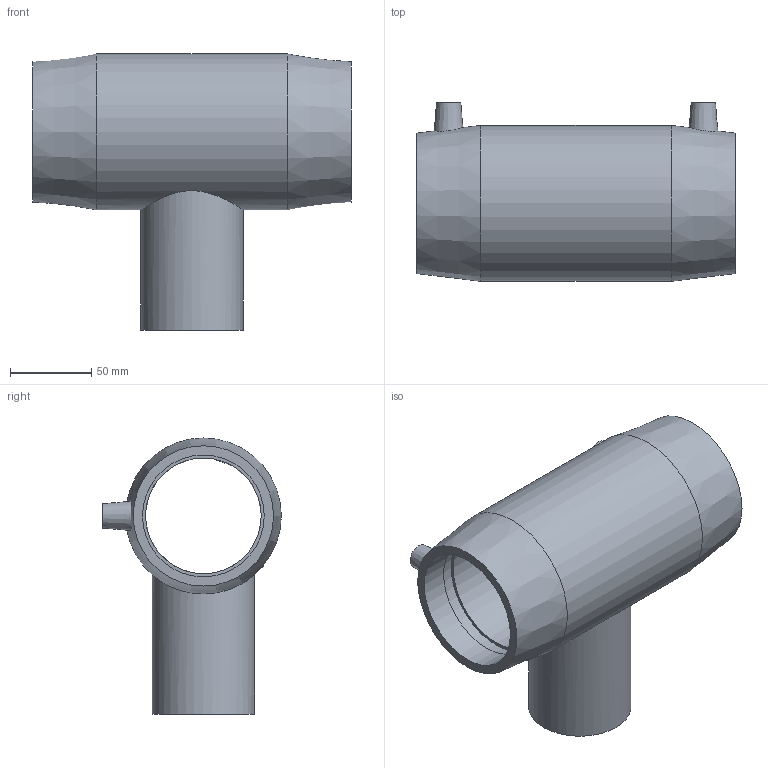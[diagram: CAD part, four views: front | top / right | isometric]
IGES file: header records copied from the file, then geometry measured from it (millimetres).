
Global section: file name: 491404075063.ipt; native system: Autodesk Inventor 2015; preprocessor: unknown; author: KIM; date: 20171106.093848; units: millimetre
Bounding box: 196 x 110 x 170 mm (x, y, z)
Volume: 592086.8 mm3; surface area: 136904.2 mm2
Topology: 1 solids, 1 shells, 31 faces, 72 edges, 52 vertices
Faces by surface type: plane 13, revolution 10, cylinder 4, cone 4
Full cylindrical faces by diameter (mm): 4 x2, 63 x1, 96 x1
